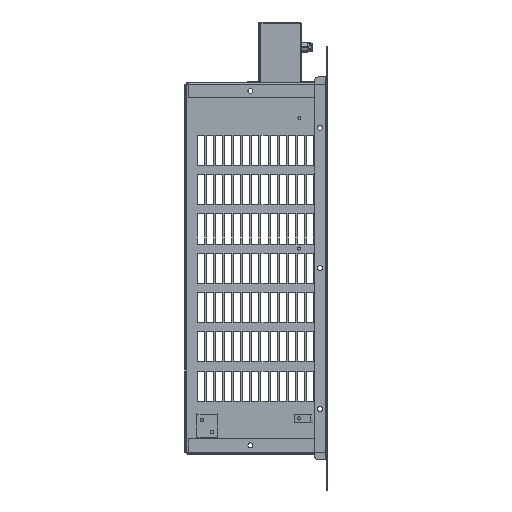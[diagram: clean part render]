
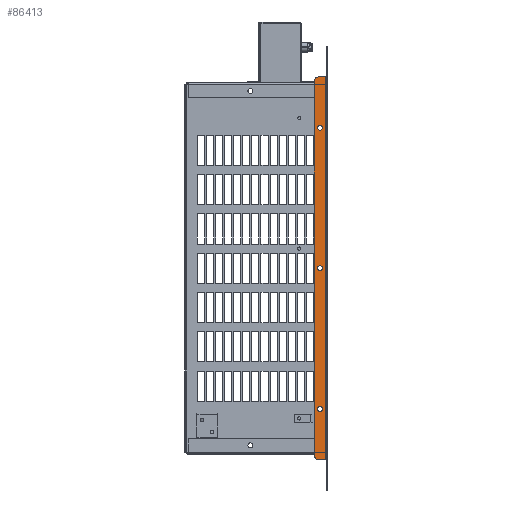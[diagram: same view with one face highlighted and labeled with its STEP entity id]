
A CAD part, left-side view. The second image highlights one B-rep face of the part: STEP entity #86413.
In plain terms, the highlighted planar face has unit normal (-1, 0, 0).
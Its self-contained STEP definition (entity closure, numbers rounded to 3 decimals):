
#3379=FACE_BOUND('',#15952,.T.);
#3380=FACE_BOUND('',#15953,.T.);
#3381=FACE_BOUND('',#15954,.T.);
#6517=PLANE('',#90259);
#10521=FACE_OUTER_BOUND('',#15951,.T.);
#15951=EDGE_LOOP('',(#78073,#78074,#78075,#78076,#78077,#78078));
#15952=EDGE_LOOP('',(#78079));
#15953=EDGE_LOOP('',(#78080));
#15954=EDGE_LOOP('',(#78081));
#25702=LINE('',#139255,#35444);
#25707=LINE('',#139270,#35449);
#25708=LINE('',#139272,#35450);
#25709=LINE('',#139273,#35451);
#35444=VECTOR('',#107640,10.);
#35449=VECTOR('',#107655,10.);
#35450=VECTOR('',#107656,10.);
#35451=VECTOR('',#107657,10.);
#35896=CIRCLE('',#90204,2.5);
#35900=CIRCLE('',#90210,2.5);
#35904=CIRCLE('',#90216,2.5);
#35926=CIRCLE('',#90253,5.);
#35928=CIRCLE('',#90258,5.);
#43564=VERTEX_POINT('',#139074);
#43568=VERTEX_POINT('',#139084);
#43572=VERTEX_POINT('',#139094);
#43633=VERTEX_POINT('',#139245);
#43634=VERTEX_POINT('',#139247);
#43636=VERTEX_POINT('',#139253);
#43640=VERTEX_POINT('',#139265);
#43641=VERTEX_POINT('',#139269);
#43642=VERTEX_POINT('',#139271);
#55042=EDGE_CURVE('',#43564,#43564,#35896,.T.);
#55046=EDGE_CURVE('',#43568,#43568,#35900,.T.);
#55050=EDGE_CURVE('',#43572,#43572,#35904,.T.);
#55126=EDGE_CURVE('',#43633,#43634,#35926,.T.);
#55130=EDGE_CURVE('',#43636,#43633,#25702,.T.);
#55135=EDGE_CURVE('',#43640,#43636,#35928,.T.);
#55137=EDGE_CURVE('',#43640,#43641,#25707,.T.);
#55138=EDGE_CURVE('',#43642,#43641,#25708,.T.);
#55139=EDGE_CURVE('',#43642,#43634,#25709,.T.);
#78073=ORIENTED_EDGE('',*,*,#55126,.F.);
#78074=ORIENTED_EDGE('',*,*,#55130,.F.);
#78075=ORIENTED_EDGE('',*,*,#55135,.F.);
#78076=ORIENTED_EDGE('',*,*,#55137,.T.);
#78077=ORIENTED_EDGE('',*,*,#55138,.F.);
#78078=ORIENTED_EDGE('',*,*,#55139,.T.);
#78079=ORIENTED_EDGE('',*,*,#55042,.T.);
#78080=ORIENTED_EDGE('',*,*,#55046,.T.);
#78081=ORIENTED_EDGE('',*,*,#55050,.T.);
#86413=ADVANCED_FACE('',(#10521,#3379,#3380,#3381),#6517,.T.);
#90204=AXIS2_PLACEMENT_3D('',#139075,#107481,#107482);
#90210=AXIS2_PLACEMENT_3D('',#139085,#107493,#107494);
#90216=AXIS2_PLACEMENT_3D('',#139095,#107505,#107506);
#90253=AXIS2_PLACEMENT_3D('',#139248,#107633,#107634);
#90258=AXIS2_PLACEMENT_3D('',#139266,#107650,#107651);
#90259=AXIS2_PLACEMENT_3D('',#139268,#107653,#107654);
#107481=DIRECTION('center_axis',(1.,0.,0.));
#107482=DIRECTION('ref_axis',(0.,-1.,0.));
#107493=DIRECTION('center_axis',(1.,0.,0.));
#107494=DIRECTION('ref_axis',(0.,-1.,0.));
#107505=DIRECTION('center_axis',(1.,0.,0.));
#107506=DIRECTION('ref_axis',(0.,-1.,0.));
#107633=DIRECTION('center_axis',(1.,0.,0.));
#107634=DIRECTION('ref_axis',(0.,0.707,0.707));
#107640=DIRECTION('',(0.,0.,1.));
#107650=DIRECTION('center_axis',(1.,0.,0.));
#107651=DIRECTION('ref_axis',(0.,0.707,-0.707));
#107653=DIRECTION('center_axis',(-1.,0.,0.));
#107654=DIRECTION('ref_axis',(0.,-1.,0.));
#107655=DIRECTION('',(0.,-1.,0.));
#107656=DIRECTION('',(0.,0.,-1.));
#107657=DIRECTION('',(0.,1.,0.));
#139074=CARTESIAN_POINT('',(-200.45,3.1,-139.5));
#139075=CARTESIAN_POINT('Origin',(-200.45,0.6,-139.5));
#139084=CARTESIAN_POINT('',(-200.45,3.1,139.5));
#139085=CARTESIAN_POINT('Origin',(-200.45,0.6,139.5));
#139094=CARTESIAN_POINT('',(-200.45,3.1,0.));
#139095=CARTESIAN_POINT('Origin',(-200.45,0.6,0.));
#139245=CARTESIAN_POINT('',(-200.45,6.5,185.));
#139247=CARTESIAN_POINT('',(-200.45,1.5,190.));
#139248=CARTESIAN_POINT('Origin',(-200.45,1.5,185.));
#139253=CARTESIAN_POINT('',(-200.45,6.5,-185.));
#139255=CARTESIAN_POINT('',(-200.45,6.5,0.));
#139265=CARTESIAN_POINT('',(-200.45,1.5,-190.));
#139266=CARTESIAN_POINT('Origin',(-200.45,1.5,-185.));
#139268=CARTESIAN_POINT('Origin',(-200.45,6.5,0.));
#139269=CARTESIAN_POINT('',(-200.45,-5.,-190.));
#139270=CARTESIAN_POINT('',(-200.45,0.,-190.));
#139271=CARTESIAN_POINT('',(-200.45,-5.,190.));
#139272=CARTESIAN_POINT('',(-200.45,-5.,0.));
#139273=CARTESIAN_POINT('',(-200.45,0.,190.));
